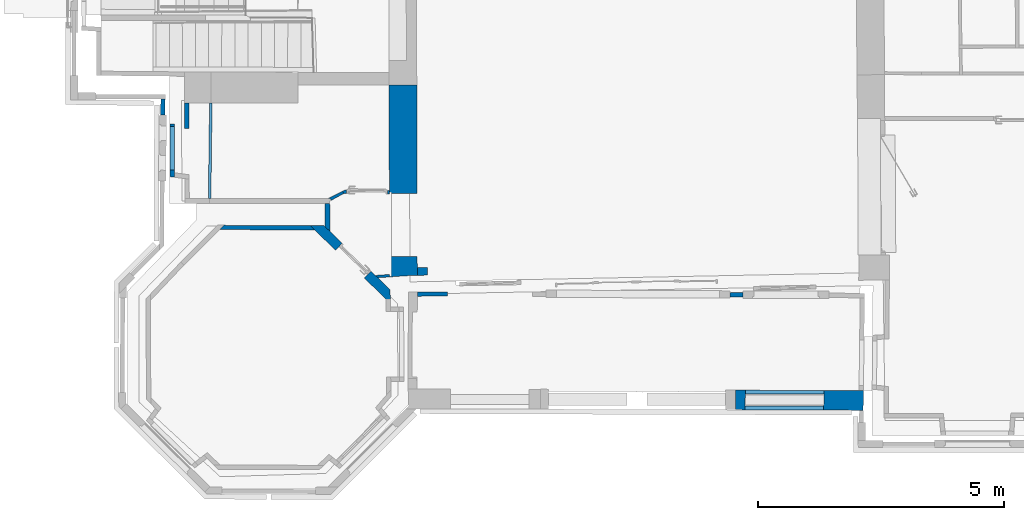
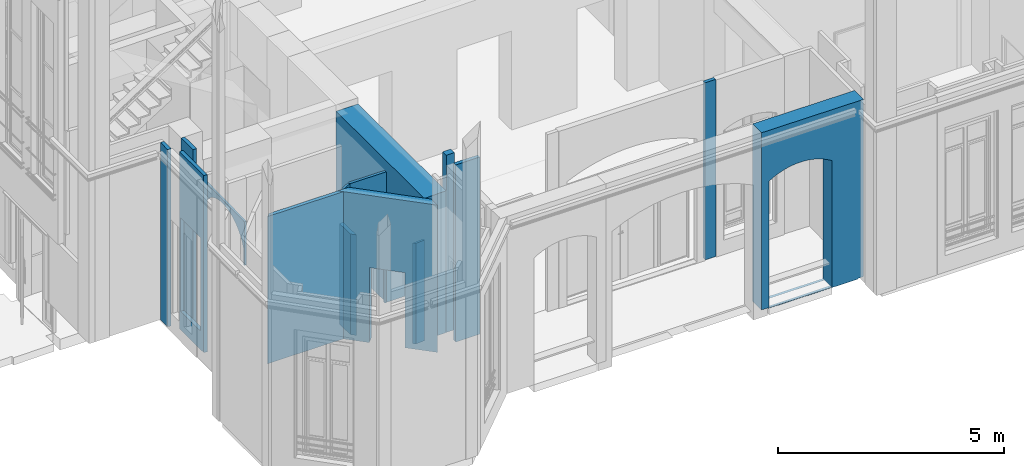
# One storey, part 7 of 97: 15 walls, 6 openings.
"""IFC2X3 building model written with IfcOpenShell, lengths in centimetres."""

from ifc_helpers import new_model, entity, si_unit, converted_unit, point, direction, frame, frame_2d, origin, origin_with_axes, place, context, subcontext, project, spatial, polyline, circle_curve, trimmed, segment, composite_curve, outline, extrude, clip, bounded_halfspace, shape, material, layer, layer_set, layer_usage, type_object, element, save


model = new_model("IFC2X3")

# Units and contexts
model_context = context("Model", 3, precision=0.0001, world=origin(), true_north=direction((0.225632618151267, 0.974212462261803, 0.0)))
body_context = subcontext(model_context, "Body", "Model", "MODEL_VIEW")
footprint_context = subcontext(model_context, "FootPrint", "Model", "MODEL_VIEW")
profile_context = subcontext(model_context, "Profile", "Model", "MODEL_VIEW")
ifc_project = project(units=[si_unit("LENGTHUNIT", "METRE", prefix="CENTI"), si_unit("AREAUNIT", "SQUARE_METRE", prefix="CENTI"), si_unit("VOLUMEUNIT", "CUBIC_METRE", prefix="CENTI"), converted_unit("PLANEANGLEUNIT", "DEGREE", entity("IfcRatioMeasure", 0.0174532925), si_unit("PLANEANGLEUNIT", "RADIAN"), dimensions=[0, 0, 0, 0, 0, 0, 0])], contexts=[model_context])

# Site, building, storey
site_placement = place(None, origin_with_axes())
site = spatial("IfcSite", under=ifc_project, at=site_placement, Name="Default Site", CompositionType="ELEMENT")
building_placement = place(site_placement, origin_with_axes())
building = spatial("IfcBuilding", under=site, at=building_placement, Name="Default Building", CompositionType="ELEMENT")
storey_placement = place(building_placement, origin_with_axes())
storey = spatial("IfcBuildingStorey", under=building, at=storey_placement, Name="Rez-de-chaussée", CompositionType="ELEMENT", Elevation=0.0)

# Walls
ifc_material = material(Name="<aucun>")
ifc_layer_1 = layer(ifc_material, 9.0)
ifc_layer_set_1 = layer_set([ifc_layer_1], Name="default")
ifc_layer_usage_1 = layer_usage(ifc_layer_set_1, "AXIS2", "POSITIVE", -4.5)
wall_type_1 = type_object("IfcWallType", Name="default 90", PredefinedType="NOTDEFINED", material=ifc_layer_set_1)
wall_1_placement = place(storey_placement, frame((-657.330745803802, -737.682139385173, 0.0128503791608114), z_axis=(0.0, 0.0, 1.0), x_axis=(0.99999886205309, 0.00150860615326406, 0.0)))
element("IfcWallStandardCase", 1, at=wall_1_placement, inside=storey, type_object=wall_type_1, material=ifc_layer_usage_1, Name="Enveloppe 378223", context=body_context, shape_type="SweptSolid", body=[
    extrude(outline(polyline([(0.0844572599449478, -4.50000000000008), (61.541097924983, -4.49999999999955), (61.5932444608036, 4.50000000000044), (0.154961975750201, 4.4999999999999), (0.0844572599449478, -4.50000000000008)])), frame((0.0, 0.0, 2.71050543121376e-18), z_axis=(0.0, 0.0, 1.0), x_axis=(1.0, 0.0, 0.0)), (0.0, 0.0, 1.0), 477.795358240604),
])
ifc_layer_usage_2 = layer_usage(ifc_layer_set_1, "AXIS2", "POSITIVE", -4.5)
wall_2_placement = place(storey_placement, frame((-22.2029204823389, -739.563571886, 0.0128503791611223), z_axis=(0.0, 0.0, 1.0), x_axis=(0.999984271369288, 0.00560865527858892, 0.0)))
element("IfcWallStandardCase", 2, at=wall_2_placement, inside=storey, type_object=wall_type_1, material=ifc_layer_usage_2, Name="Enveloppe 376135", context=body_context, shape_type="SweptSolid", body=[
    extrude(outline(polyline([(0.0452726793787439, -4.50000000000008), (27.3168609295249, -4.50000000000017), (27.3630442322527, 4.4999999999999), (0.130137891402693, 4.49999999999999), (0.0452726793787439, -4.50000000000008)])), frame((0.0, 0.0, -5.42101086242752e-18), z_axis=(0.0, 0.0, 1.0), x_axis=(1.0, 0.0, 0.0)), (0.0, 0.0, 1.0), 477.795358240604),
])
ifc_layer_usage_3 = layer_usage(ifc_layer_set_1, "AXIS2", "POSITIVE", -4.5)
wall_3_placement = place(storey_placement, frame((-1174.59211300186, -373.486389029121, 0.0128503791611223), z_axis=(0.0, 0.0, 1.0), x_axis=(0.0163707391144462, 0.999865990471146, 0.0)))
element("IfcWallStandardCase", 3, at=wall_3_placement, inside=storey, type_object=wall_type_1, material=ifc_layer_usage_3, Name="Enveloppe 372767", context=body_context, shape_type="SweptSolid", body=[
    extrude(outline(polyline([(0.0787774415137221, 4.49999999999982), (0.110802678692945, -4.50000000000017), (32.4151412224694, -4.50000000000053), (32.2840366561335, 4.49999999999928), (0.0787774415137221, 4.49999999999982)])), origin_with_axes(), (0.0, 0.0, 1.0), 477.795358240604),
])

# Wall, opening
ifc_layer_usage_4 = layer_usage(ifc_layer_set_1, "AXIS2", "POSITIVE", -4.5)
wall_4_placement = place(storey_placement, frame((-1155.23434735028, -495.228623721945, 0.0128503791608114), z_axis=(0.0, 0.0, 1.0), x_axis=(-0.00344140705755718, 0.999994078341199, 0.0)))
wall_4 = element("IfcWallStandardCase", 4, at=wall_4_placement, inside=storey, type_object=wall_type_1, material=ifc_layer_usage_4, Name="Enveloppe 665263", context=body_context, shape_type="SweptSolid", body=[
    extrude(outline(polyline([(103.126567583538, 4.49999999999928), (-3.93582932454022, 4.49999999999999), (-5.14504017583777, -4.49999999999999), (103.126567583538, -4.50000000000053), (103.126567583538, 4.49999999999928)])), frame((0.0, 0.0, 2.71050543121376e-18), z_axis=(0.0, 0.0, 1.0), x_axis=(1.0, 0.0, 0.0)), (0.0, 0.0, 1.0), 477.795358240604),
])
opening_1_placement = place(wall_4_placement, frame((9.51895918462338, 0.0, 49.9871496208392), z_axis=(0.0, 0.0, 1.0), x_axis=(-1.0, 4.68331970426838e-15, 0.0)))
cartesian_point_1 = entity("IfcCartesianPoint", [-8.88178419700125e-14, 1.77635683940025e-13, 252.0])
cartesian_point_2 = entity("IfcCartesianPoint", [-88.3246452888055, -4.49999999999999])
element("IfcOpeningElement", 5, at=opening_1_placement, cuts=wall_4, Name="4294966463_11", ObjectType="Opening", shapes=[
    shape(body_context, "Body", "SweptSolid", [extrude(outline(polyline([(8.88178419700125e-14, 252.0), (0.0, 0.0), (88.3246452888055, 0.0), (88.3246452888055, 252.0), (8.88178419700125e-14, 252.0)])), frame((0.0, -14.5, 0.0), z_axis=(0.0, 1.0, 0.0), x_axis=(-1.0, 0.0, 0.0)), (0.0, 0.0, 1.0), 29.0)]),
    shape(profile_context, "Profile", "GeometricCurveSet", [entity("IfcGeometricCurveSet", [entity("IfcPolyline", [cartesian_point_1, entity("IfcCartesianPoint", [0.0, 1.77635683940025e-13, 0.0]), entity("IfcCartesianPoint", [-88.3246452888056, 0.0, 0.0]), entity("IfcCartesianPoint", [-88.3246452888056, 0.0, 252.0]), cartesian_point_1])])]),
    shape(footprint_context, "FootPrint", "GeometricCurveSet", [entity("IfcGeometricCurveSet", [entity("IfcPolyline", [cartesian_point_2, entity("IfcCartesianPoint", [0.0, -4.49999999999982]), entity("IfcCartesianPoint", [0.0, 4.49999999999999]), entity("IfcCartesianPoint", [-88.3246452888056, 4.49999999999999]), cartesian_point_2])])]),
])

# Walls
ifc_layer_usage_5 = layer_usage(ifc_layer_set_1, "AXIS2", "POSITIVE", -4.5)
wall_5_placement = place(storey_placement, frame((-1125.74221804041, -401.196417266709, 0.0128503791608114), z_axis=(0.0, 0.0, 1.0), x_axis=(-0.00338637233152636, 0.999994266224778, 0.0)))
element("IfcWallStandardCase", 6, at=wall_5_placement, inside=storey, type_object=wall_type_1, material=ifc_layer_usage_5, Name="Enveloppe 665094", context=body_context, shape_type="SweptSolid", body=[
    extrude(outline(polyline([(52.313976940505, 4.49999999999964), (4.44089209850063e-14, 4.49999999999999), (8.88178419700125e-14, -4.49999999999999), (52.2485193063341, -4.50000000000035), (52.313976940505, 4.49999999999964)])), frame((0.0, 0.0, -2.71050543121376e-18), z_axis=(0.0, 0.0, 1.0), x_axis=(1.0, 0.0, 0.0)), (0.0, 0.0, 1.0), 477.795358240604),
])
ifc_layer_usage_6 = layer_usage(ifc_layer_set_1, "AXIS2", "POSITIVE", -4.5)
wall_6_placement = place(storey_placement, frame((-865.762344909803, -602.902560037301, 0.0128503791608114), z_axis=(0.0, 0.0, 1.0), x_axis=(-0.999995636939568, 0.00295399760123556, 0.0)))
element("IfcWallStandardCase", 7, at=wall_6_placement, inside=storey, type_object=wall_type_1, material=ifc_layer_usage_6, Name="Enveloppe 7452", context=body_context, shape_type="SweptSolid", body=[
    extrude(outline(polyline([(193.710443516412, 4.50000000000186), (0.232309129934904, 4.49999999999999), (9.57891410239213, -4.49999999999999), (184.763459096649, -4.49999999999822), (193.710443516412, 4.50000000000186)])), origin_with_axes(), (0.0, 0.0, 1.0), 397.095358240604),
])
ifc_layer_2 = layer(ifc_material, 10.0)
ifc_layer_set_2 = layer_set([ifc_layer_2], Name="default")
ifc_layer_usage_7 = layer_usage(ifc_layer_set_2, "AXIS2", "POSITIVE", -5.0)
wall_type_2 = type_object("IfcWallType", Name="default 100", PredefinedType="NOTDEFINED", material=ifc_layer_set_2)
wall_7_placement = place(storey_placement, frame((-839.450717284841, -600.954785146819, 0.0128503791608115), z_axis=(0.0, 0.0, 1.0), x_axis=(-0.0178529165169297, 0.999840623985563, 0.0)))
element("IfcWallStandardCase", 8, at=wall_7_placement, inside=storey, type_object=wall_type_2, material=ifc_layer_usage_7, Name="Enveloppe 13547", context=body_context, shape_type="SweptSolid", body=[
    extrude(outline(polyline([(47.2027762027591, 4.99999194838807), (1.77635683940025e-13, 5.00000000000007), (-10.0384350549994, -5.00000000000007), (47.0282207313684, -4.99999999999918), (47.2027762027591, 4.99999194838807)])), frame((0.0, 0.0, -5.42101086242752e-18), z_axis=(0.0, 0.0, 1.0), x_axis=(1.0, 0.0, 0.0)), (0.0, 0.0, 1.0), 271.482507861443),
])

# Wall, opening
ifc_layer_3 = layer(ifc_material, 7.0)
ifc_layer_set_3 = layer_set([ifc_layer_3], Name="default")
ifc_layer_usage_8 = layer_usage(ifc_layer_set_3, "AXIS2", "POSITIVE", -3.5)
wall_type_3 = type_object("IfcWallType", Name="default 70", PredefinedType="NOTDEFINED", material=ifc_layer_set_3)
wall_8_placement = place(storey_placement, frame((-714.220763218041, -530.600507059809, 0.0128503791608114), z_axis=(0.0, 0.0, 1.0), x_axis=(-0.99997878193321, 0.00651426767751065, 0.0)))
wall_8 = element("IfcWallStandardCase", 9, at=wall_8_placement, inside=storey, type_object=wall_type_3, material=ifc_layer_usage_8, Name="Enveloppe 3061", context=body_context, shape_type="SweptSolid", body=[
    extrude(outline(polyline([(95.2692901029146, -1.23451619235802), (92.6518303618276, 3.49999999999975), (-0.048534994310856, 3.49999999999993), (0.0157492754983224, -3.50000000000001), (90.9154070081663, -3.50000000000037), (92.2863931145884, -2.74205540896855), (95.2692901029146, -1.23451619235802)])), origin_with_axes(), (0.0, 0.0, 1.0), 352.895358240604),
])
opening_2_placement = place(wall_8_placement, frame((3.69075094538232, 1.13686837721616e-13, -3.55269633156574e-13), z_axis=(0.0, 0.0, 1.0), x_axis=(-1.0, 2.73132211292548e-15, 0.0)))
cartesian_point_3 = entity("IfcCartesianPoint", [0.0, 8.88178419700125e-14, 203.0])
cartesian_point_4 = entity("IfcCartesianPoint", [-82.9871293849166, -3.50000000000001])
element("IfcOpeningElement", 10, at=opening_2_placement, cuts=wall_8, Name="4294966362_11", ObjectType="Opening", shapes=[
    shape(body_context, "Body", "SweptSolid", [extrude(outline(polyline([(0.0, 203.0), (0.0, 0.0), (82.9871293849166, 0.0), (82.9871293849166, 203.0), (0.0, 203.0)])), frame((0.0, -13.5, 0.0), z_axis=(0.0, 1.0, 0.0), x_axis=(-1.0, 0.0, 0.0)), (0.0, 0.0, 1.0), 27.0)]),
    shape(profile_context, "Profile", "GeometricCurveSet", [entity("IfcGeometricCurveSet", [entity("IfcPolyline", [cartesian_point_3, entity("IfcCartesianPoint", [0.0, 8.88178419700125e-14, 0.0]), entity("IfcCartesianPoint", [-82.9871293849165, 8.88178419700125e-14, 0.0]), entity("IfcCartesianPoint", [-82.9871293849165, 8.88178419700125e-14, 203.0]), cartesian_point_3])])]),
    shape(footprint_context, "FootPrint", "GeometricCurveSet", [entity("IfcGeometricCurveSet", [entity("IfcPolyline", [cartesian_point_4, entity("IfcCartesianPoint", [0.0, -3.49999999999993]), entity("IfcCartesianPoint", [0.0, 3.5000000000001]), entity("IfcCartesianPoint", [-82.9871293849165, 3.50000000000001]), cartesian_point_4])])]),
])

# Wall
ifc_layer_4 = layer(ifc_material, 16.0)
ifc_layer_set_4 = layer_set([ifc_layer_4], Name="default")
ifc_layer_usage_9 = layer_usage(ifc_layer_set_4, "AXIS2", "POSITIVE", -8.0)
wall_type_4 = type_object("IfcWallType", Name="default 160", PredefinedType="NOTDEFINED", material=ifc_layer_set_4)
wall_9_placement = place(storey_placement, frame((-657.158307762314, -691.894802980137, 0.0128503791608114), z_axis=(0.0, 0.0, 1.0), x_axis=(0.999562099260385, 0.0295907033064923, 0.0)))
element("IfcWallStandardCase", 11, at=wall_9_placement, inside=storey, type_object=wall_type_4, material=ifc_layer_usage_9, Name="Enveloppe 377554", context=body_context, shape_type="Clipping", body=[
    clip(extrude(outline(polyline([(0.0, 8.00000000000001), (-0.430922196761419, -8.00000000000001), (20.8301476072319, -7.99999999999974), (20.8301476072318, 8.0000000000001), (0.0, 8.00000000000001)])), origin_with_axes(), (0.0, 0.0, 1.0), 477.795358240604), bounded_halfspace(frame((-0.430922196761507, -8.00000000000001, 382.495358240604), z_axis=(0.0, 0.0, -1.0), x_axis=(1.0, 1.51011148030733e-13, 0.0)), True, frame((-0.430922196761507, -8.00000000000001, 382.495358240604), z_axis=(0.0, 0.0, 1.0), x_axis=(1.0, 0.0, 0.0)), polyline([(-8.88178419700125e-14, 8.88178419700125e-14), (0.430922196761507, 0.0), (0.43092219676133, 16.0), (-8.88178419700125e-14, 8.88178419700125e-14)]))),
])

# Wall, opening
ifc_layer_5 = layer(ifc_material, 39.8)
ifc_layer_set_5 = layer_set([ifc_layer_5], Name="default")
ifc_layer_usage_10 = layer_usage(ifc_layer_set_5, "AXIS2", "POSITIVE", -19.9)
wall_type_5 = type_object("IfcWallType", Name="default 398", PredefinedType="NOTDEFINED", material=ifc_layer_set_5)
wall_10_placement = place(storey_placement, frame((241.109870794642, -954.063924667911, -1.99999999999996), z_axis=(0.0, 0.0, 1.0), x_axis=(-0.999988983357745, 0.00469394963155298, 0.0)))
wall_10 = element("IfcWallStandardCase", 12, at=wall_10_placement, inside=storey, type_object=wall_type_5, material=ifc_layer_usage_10, Name="Enveloppe 395922", context=body_context, shape_type="Clipping", body=[
    clip(clip(clip(clip(clip(extrude(outline(polyline([(251.570852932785, 19.9000000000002), (-7.89551241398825, 19.9), (-8.19333178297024, -19.900999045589), (251.570852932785, -19.8999999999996), (251.570852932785, 19.9000000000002)])), frame((0.0, 0.0, 3.46944695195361e-16), z_axis=(0.0, 0.0, 1.0), x_axis=(1.0, 0.0, 0.0)), (0.0, 0.0, 1.0), 479.808208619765), bounded_halfspace(frame((234.790430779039, 19.9000000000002, 2.01285037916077), z_axis=(0.0, 0.0, 1.0), x_axis=(1.0, -2.77963416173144e-14, 0.0)), True, frame((234.790430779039, 19.9000000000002, 2.01285037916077), z_axis=(0.0, 0.0, 1.0), x_axis=(1.0, 0.0, 0.0)), polyline([(-4.44089209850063e-14, -39.7999999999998), (0.0, 0.0), (0.866286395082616, 1.77635683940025e-13), (-4.44089209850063e-14, -39.7999999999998)]))), bounded_halfspace(frame((-8.19333647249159, -19.8999999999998, 2.01285037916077), z_axis=(0.0, 0.0, 1.0), x_axis=(0.00748280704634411, 0.999972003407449, 0.0)), True, frame((-8.19333647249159, -19.8999999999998, 2.01285037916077), z_axis=(0.0, 0.0, 1.0), x_axis=(1.0, 0.0, 0.0)), polyline([(-4.44089209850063e-14, 0.0), (0.125681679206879, 16.7955901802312), (13.4338697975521, 16.8103963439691), (13.7245501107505, 0.0), (-4.44089209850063e-14, 0.0)]))), bounded_halfspace(frame((234.790430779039, -19.8999999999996, 2.01285037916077), z_axis=(0.0, 0.0, 1.0), x_axis=(0.0217608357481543, 0.99976320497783, 0.0)), True, frame((234.790430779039, -19.8999999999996, 2.01285037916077), z_axis=(0.0, 0.0, 1.0), x_axis=(1.0, 0.0, 0.0)), polyline([(0.0, 0.0), (0.86628639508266, 39.8), (16.7804221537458, 39.8), (16.7804221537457, 1.77635683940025e-13), (0.0, 0.0)]))), bounded_halfspace(frame((5.48693373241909, 19.8999999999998, 2.01285037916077), z_axis=(0.0, 0.0, 1.0), x_axis=(0.00111255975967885, -0.999999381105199, 0.0)), True, frame((5.48693373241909, 19.8999999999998, 2.01285037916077), z_axis=(0.0, 0.0, 1.0), x_axis=(1.0, 0.0, 0.0)), polyline([(-13.5545885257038, -23.0044098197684), (-13.3824461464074, 1.77635683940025e-13), (-4.44089209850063e-14, 0.0), (0.0442799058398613, -39.7999999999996), (-0.246400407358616, -22.9896036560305), (-13.5545885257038, -23.0044098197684)]))), bounded_halfspace(frame((231.908048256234, 12.5224498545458, 64.3971914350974), z_axis=(0.0, 0.0, 1.0), x_axis=(0.00469394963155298, -0.999988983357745, 0.0)), True, frame((231.908048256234, 12.5224498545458, 64.3971914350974), z_axis=(0.0, 0.0, 1.0), x_axis=(1.0, 0.0, 0.0)), polyline([(-159.96706075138, -25.6511599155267), (-159.678917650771, -0.749533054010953), (-4.44089209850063e-14, 1.77635683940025e-13), (0.116879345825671, -24.8997256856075), (-159.96706075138, -25.6511599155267)]))),
])
opening_3_placement = place(wall_10_placement, frame((72.3231711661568, 0.0, 0.625699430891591), z_axis=(0.0, 0.0, 1.0), x_axis=(-1.0, 8.34401991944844e-16, 0.0)))
cartesian_point_5 = entity("IfcCartesianPoint", [2.22044604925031e-14, 0.0, 342.067063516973])
cartesian_point_6 = entity("IfcCartesianPoint", [-159.595627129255, 0.0, 342.067063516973])
cartesian_point_7 = entity("IfcCartesianPoint", [-159.595627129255, -19.9])
element("IfcOpeningElement", 13, at=opening_3_placement, cuts=wall_10, Name="Baie 379471", ObjectType="Opening", shapes=[
    shape(body_context, "Body", "SweptSolid", [extrude(outline(composite_curve([segment(polyline([(-2.22044604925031e-14, 342.067063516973), (-2.22044604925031e-14, 1.73472347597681e-16), (159.595627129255, 1.73472347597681e-16), (159.595627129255, 342.067063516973)]), True, "CONTINUOUS"), segment(trimmed(circle_curve(frame_2d((79.7978135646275, 218.288198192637), x_axis=(1.0, 0.0)), 147.271513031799), [point((159.595627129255, 342.067063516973))], [point((-2.22044604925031e-14, 342.067063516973))], True, "CARTESIAN"), True, "CONTINUOUS")], self_intersect=False)), frame((0.0, -29.9, 0.0), z_axis=(0.0, 1.0, 0.0), x_axis=(-1.0, 0.0, 0.0)), (0.0, 0.0, 1.0), 59.8)]),
    shape(profile_context, "Profile", "GeometricCurveSet", [entity("IfcGeometricCurveSet", [entity("IfcCompositeCurve", [entity("IfcCompositeCurveSegment", "CONTINUOUS", True, entity("IfcPolyline", [cartesian_point_5, entity("IfcCartesianPoint", [2.22044604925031e-14, 0.0, 1.73472347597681e-16]), entity("IfcCartesianPoint", [-159.595627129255, 0.0, 1.73472347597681e-16]), cartesian_point_6])), entity("IfcCompositeCurveSegment", "CONTINUOUS", True, entity("IfcTrimmedCurve", entity("IfcCircle", entity("IfcAxis2Placement3D", entity("IfcCartesianPoint", [-79.7978135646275, 0.0, 218.288198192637]), entity("IfcDirection", [0.0, 1.0, 0.0]), entity("IfcDirection", [1.0, 0.0, 0.0])), 147.271513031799), [cartesian_point_6], [cartesian_point_5], True, "CARTESIAN"))], False)])]),
    shape(footprint_context, "FootPrint", "GeometricCurveSet", [entity("IfcGeometricCurveSet", [entity("IfcPolyline", [cartesian_point_7, entity("IfcCartesianPoint", [2.22044604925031e-14, -19.9]), entity("IfcCartesianPoint", [0.0, 19.9]), entity("IfcCartesianPoint", [-159.595627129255, 19.9]), cartesian_point_7])])]),
])

# Wall
ifc_layer_6 = layer(ifc_material, 5.28504028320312)
ifc_layer_set_6 = layer_set([ifc_layer_6], Name="default")
ifc_layer_usage_11 = layer_usage(ifc_layer_set_6, "AXIS2", "POSITIVE", -2.643)
wall_type_6 = type_object("IfcWallType", Name="default 52.8504028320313", PredefinedType="NOTDEFINED", material=ifc_layer_set_6)
wall_11_placement = place(storey_placement, frame((-741.805079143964, -702.409559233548, 0.0128503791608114), z_axis=(0.0, 0.0, 1.0), x_axis=(0.99738248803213, 0.0723061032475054, 0.0)))
element("IfcWallStandardCase", 14, at=wall_11_placement, inside=storey, type_object=wall_type_6, material=ifc_layer_usage_11, Name="Enveloppe 33569", context=body_context, shape_type="SweptSolid", body=[
    extrude(outline(polyline([(-0.491041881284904, 2.64300000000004), (4.22964589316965, -2.64299999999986), (27.9429285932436, -2.64299999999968), (28.3119625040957, 2.64300000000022), (-0.491041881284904, 2.64300000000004)])), origin_with_axes(), (0.0, 0.0, 1.0), 271.482507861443),
])

# Wall, opening
ifc_layer_usage_12 = layer_usage(ifc_layer_set_6, "AXIS2", "POSITIVE", -2.643)
wall_12_placement = place(storey_placement, frame((-1079.39428049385, -543.919239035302, 235.0), z_axis=(0.0, 0.0, 1.0), x_axis=(0.0125031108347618, 0.999921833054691, 0.0)))
wall_12 = element("IfcWallStandardCase", 15, at=wall_12_placement, inside=storey, type_object=wall_type_6, material=ifc_layer_usage_12, Name="Enveloppe 42906", context=body_context, shape_type="SweptSolid", body=[
    extrude(outline(polyline([(-0.068450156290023, 2.64299999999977), (8.88178419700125e-14, -2.64299999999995), (194.851483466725, -2.64300000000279), (194.805933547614, 2.64299999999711), (-0.068450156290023, 2.64299999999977)])), frame((0.0, 0.0, -1.77635683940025e-13), z_axis=(0.0, 0.0, 1.0), x_axis=(1.0, 0.0, 0.0)), (0.0, 0.0, 1.0), 117.908208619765),
])
opening_4_placement = place(wall_12_placement, frame((2.61921316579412, 0.0, -1.70530256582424e-13), z_axis=(0.0, 0.0, 1.0), x_axis=(1.0, -1.42455491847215e-14, 0.0)))
cartesian_point_8 = entity("IfcCartesianPoint", [0.0, 0.0, 40.0])
cartesian_point_9 = entity("IfcCartesianPoint", [185.980987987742, 0.0, 40.0])
cartesian_point_10 = entity("IfcCartesianPoint", [185.980987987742, 2.64299999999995])
element("IfcOpeningElement", 16, at=opening_4_placement, cuts=wall_12, Name="Baie 45359", ObjectType="Opening", shapes=[
    shape(body_context, "Body", "SweptSolid", [extrude(outline(composite_curve([segment(polyline([(8.88178419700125e-14, 40.0), (8.88178419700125e-14, 0.0), (185.980987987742, 0.0), (185.980987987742, 40.0)]), True, "CONTINUOUS"), segment(trimmed(circle_curve(frame_2d((92.9904939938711, 10.5282776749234), x_axis=(1.0, 0.0)), 97.5490358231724), [point((185.980987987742, 40.0))], [point((8.88178419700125e-14, 40.0))], True, "CARTESIAN"), True, "CONTINUOUS")], self_intersect=False)), frame((0.0, 12.643, 0.0), z_axis=(0.0, -1.0, 0.0), x_axis=(1.0, 0.0, 0.0)), (0.0, 0.0, 1.0), 25.286)]),
    shape(profile_context, "Profile", "GeometricCurveSet", [entity("IfcGeometricCurveSet", [entity("IfcCompositeCurve", [entity("IfcCompositeCurveSegment", "CONTINUOUS", True, entity("IfcPolyline", [cartesian_point_8, entity("IfcCartesianPoint", [0.0, 0.0, 0.0]), entity("IfcCartesianPoint", [185.980987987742, 0.0, 0.0]), cartesian_point_9])), entity("IfcCompositeCurveSegment", "CONTINUOUS", True, entity("IfcTrimmedCurve", entity("IfcCircle", entity("IfcAxis2Placement3D", entity("IfcCartesianPoint", [92.9904939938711, 1.77635683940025e-13, 10.5282776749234]), entity("IfcDirection", [0.0, -1.0, 2.60932276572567e-15]), entity("IfcDirection", [-1.0, 0.0, 0.0])), 97.5490358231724), [cartesian_point_9], [cartesian_point_8], True, "CARTESIAN"))], False)])]),
    shape(footprint_context, "FootPrint", "GeometricCurveSet", [entity("IfcGeometricCurveSet", [entity("IfcPolyline", [cartesian_point_10, entity("IfcCartesianPoint", [0.0, 2.64299999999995]), entity("IfcCartesianPoint", [-1.77635683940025e-13, -2.64300000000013]), entity("IfcCartesianPoint", [185.980987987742, -2.64300000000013]), cartesian_point_10])])]),
])

# Wall
ifc_layer_usage_13 = layer_usage(ifc_layer_set_6, "AXIS2", "POSITIVE", -2.643)
wall_13_placement = place(storey_placement, frame((-836.721495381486, -546.725180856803, 0.0128503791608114), z_axis=(0.0, 0.0, 1.0), x_axis=(0.878295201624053, 0.478118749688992, 0.0)))
element("IfcWallStandardCase", 17, at=wall_13_placement, inside=storey, type_object=wall_type_6, material=ifc_layer_usage_13, Name="Enveloppe 3050", context=body_context, shape_type="Clipping", body=[
    clip(extrude(outline(polyline([(-1.27787518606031, 3.97379320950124), (6.45677465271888e-05, 3.27811941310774), (1.77635683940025e-13, -2.64300000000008), (32.5225503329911, -2.64299999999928), (32.5225503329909, 2.76687421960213), (-1.77635683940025e-13, 3.97310570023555), (-1.27787518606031, 3.97379320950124)])), frame((0.0, 0.0, -2.71050543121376e-18), z_axis=(0.0, 0.0, 1.0), x_axis=(1.0, 0.0, 0.0)), (0.0, 0.0, 1.0), 352.895358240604), bounded_halfspace(frame((3.47414642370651, -2.64300000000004, 271.482507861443), z_axis=(0.0, 0.0, 1.0), x_axis=(-1.0, 2.19269047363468e-14, 0.0)), True, frame((3.47414642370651, -2.64300000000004, 271.482507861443), z_axis=(0.0, 0.0, 1.0), x_axis=(1.0, 0.0, 0.0)), polyline([(-3.47414642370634, -4.44089209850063e-14), (-3.47414642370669, 5.92100080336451), (0.0, 4.03177941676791), (0.0, 0.0), (-3.47414642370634, -4.44089209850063e-14)]))),
])

# Wall, opening
ifc_layer_7 = layer(ifc_material, 56.4)
ifc_layer_set_7 = layer_set([ifc_layer_7], Name="default")
ifc_layer_usage_14 = layer_usage(ifc_layer_set_7, "AXIS2", "POSITIVE", -28.2)
wall_type_7 = type_object("IfcWallType", Name="default 564", PredefinedType="NOTDEFINED", material=ifc_layer_set_7)
wall_14_placement = place(storey_placement, frame((-685.539879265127, -704.601414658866, 0.0128503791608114), z_axis=(0.0, 0.0, 1.0), x_axis=(-0.0026688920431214, 0.999996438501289, 0.0)))
wall_14 = element("IfcWallStandardCase", 18, at=wall_14_placement, inside=storey, type_object=wall_type_7, material=ifc_layer_usage_14, Name="Enveloppe 2996", context=body_context, shape_type="Clipping", body=[
    clip(extrude(outline(polyline([(391.595612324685, 28.2000000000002), (177.576831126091, 28.2), (173.817709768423, 28.1999999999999), (1.65148642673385, 28.1999999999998), (4.01485826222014, -5.65267086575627), (4.62211729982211, -28.1999999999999), (173.817709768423, -28.2), (177.576831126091, -28.1999999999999), (391.595612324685, -28.1999999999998), (391.595612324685, 28.2000000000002)])), origin_with_axes(), (0.0, 0.0, 1.0), 382.495358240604), bounded_halfspace(frame((4.01485826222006, -5.65267086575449, 271.482507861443), z_axis=(0.0, 0.0, -1.0), x_axis=(-0.026922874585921, 0.999637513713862, 0.0)), True, frame((4.01485826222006, -5.65267086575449, 271.482507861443), z_axis=(0.0, 0.0, 1.0), x_axis=(1.0, 0.0, 0.0)), polyline([(-2.36337183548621, 33.8526708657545), (8.88178419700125e-14, 8.88178419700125e-14), (-0.911741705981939, 33.8526708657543), (-2.36337183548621, 33.8526708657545)]))),
])
opening_5_placement = place(wall_14_placement, frame((43.2566338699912, -1.13686837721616e-13, 1.73472347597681e-18), z_axis=(0.0, 0.0, 1.0), x_axis=(1.0, 1.48318857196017e-16, 0.0)))
cartesian_point_11 = entity("IfcCartesianPoint", [0.0, 0.0, 269.968460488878])
cartesian_point_12 = entity("IfcCartesianPoint", [127.90237290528, 28.2])
element("IfcOpeningElement", 19, at=opening_5_placement, cuts=wall_14, Name="Baie 42133", ObjectType="Opening", shapes=[
    shape(body_context, "Body", "SweptSolid", [extrude(outline(polyline([(-8.88178419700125e-14, 269.968460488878), (-8.88178419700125e-14, 0.0), (127.90237290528, 0.0), (127.90237290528, 269.968460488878), (-8.88178419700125e-14, 269.968460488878)])), frame((0.0, 38.2, 0.0), z_axis=(0.0, -1.0, 0.0), x_axis=(1.0, 0.0, 0.0)), (0.0, 0.0, 1.0), 76.4)]),
    shape(profile_context, "Profile", "GeometricCurveSet", [entity("IfcGeometricCurveSet", [entity("IfcPolyline", [cartesian_point_11, entity("IfcCartesianPoint", [0.0, 0.0, 0.0]), entity("IfcCartesianPoint", [127.90237290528, 0.0, 0.0]), entity("IfcCartesianPoint", [127.90237290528, 0.0, 269.968460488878]), cartesian_point_11])])]),
    shape(footprint_context, "FootPrint", "GeometricCurveSet", [entity("IfcGeometricCurveSet", [entity("IfcPolyline", [cartesian_point_12, entity("IfcCartesianPoint", [-8.88178419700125e-14, 28.2]), entity("IfcCartesianPoint", [-8.88178419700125e-14, -28.2]), entity("IfcCartesianPoint", [127.90237290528, -28.2]), cartesian_point_12])])]),
])

ifc_layer_8 = layer(ifc_material, 19.5656921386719)
ifc_layer_set_8 = layer_set([ifc_layer_8], Name="default")
ifc_layer_usage_15 = layer_usage(ifc_layer_set_8, "AXIS2", "POSITIVE", -9.783)
wall_type_8 = type_object("IfcWallType", Name="default 195.656921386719", PredefinedType="NOTDEFINED", material=ifc_layer_set_8)
wall_15_placement = place(storey_placement, frame((-714.561174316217, -740.477360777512, 0.0128503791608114), z_axis=(0.0, 0.0, 1.0), x_axis=(-0.718284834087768, 0.69574916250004, 0.0)))
wall_15 = element("IfcWallStandardCase", 20, at=wall_15_placement, inside=storey, type_object=wall_type_8, material=ifc_layer_usage_15, Name="Enveloppe 7411", context=body_context, shape_type="SweptSolid", body=[
    extrude(outline(polyline([(53.5460048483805, 9.78284638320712), (41.2658472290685, 9.7828463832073), (-12.7740725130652, 9.7828463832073), (6.40514574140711, -9.7828463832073), (41.2658472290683, -9.78284638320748), (53.5460048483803, -9.78284638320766), (173.402609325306, -9.78284638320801), (194.025215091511, -9.78284638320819), (214.344415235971, 9.78284638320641), (173.402609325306, 9.78284638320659), (53.5460048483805, 9.78284638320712)])), frame((0.0, 0.0, -5.42101086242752e-18), z_axis=(0.0, 0.0, 1.0), x_axis=(1.0, 0.0, 0.0)), (0.0, 0.0, 1.0), 397.095358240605),
])
opening_6_placement = place(wall_15_placement, frame((60.8898815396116, -2.27373675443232e-13, -4.88499865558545e-13), z_axis=(0.0, 0.0, 1.0), x_axis=(1.0, -4.88498130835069e-15, 0.0)))
cartesian_point_13 = entity("IfcCartesianPoint", [0.0, 0.0, 202.46947398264])
cartesian_point_14 = entity("IfcCartesianPoint", [81.4204761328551, 9.7828463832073])
element("IfcOpeningElement", 21, at=opening_6_placement, cuts=wall_15, Name="4294966361_11", ObjectType="Opening", shapes=[
    shape(body_context, "Body", "SweptSolid", [extrude(outline(polyline([(0.0, 202.46947398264), (0.0, 0.0), (81.4204761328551, 0.0), (81.4204761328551, 202.46947398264), (0.0, 202.46947398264)])), frame((0.0, 19.7828463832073, 0.0), z_axis=(0.0, -1.0, 0.0), x_axis=(1.0, 0.0, 0.0)), (0.0, 0.0, 1.0), 39.5656927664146)]),
    shape(profile_context, "Profile", "GeometricCurveSet", [entity("IfcGeometricCurveSet", [entity("IfcPolyline", [cartesian_point_13, entity("IfcCartesianPoint", [0.0, 0.0, 0.0]), entity("IfcCartesianPoint", [81.4204761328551, 0.0, 0.0]), entity("IfcCartesianPoint", [81.4204761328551, 0.0, 202.46947398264]), cartesian_point_13])])]),
    shape(footprint_context, "FootPrint", "GeometricCurveSet", [entity("IfcGeometricCurveSet", [entity("IfcPolyline", [cartesian_point_14, entity("IfcCartesianPoint", [0.0, 9.7828463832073]), entity("IfcCartesianPoint", [-8.88178419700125e-14, -9.7828463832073]), entity("IfcCartesianPoint", [81.420476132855, -9.7828463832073]), cartesian_point_14])])]),
])

save(model, "model.ifc")
